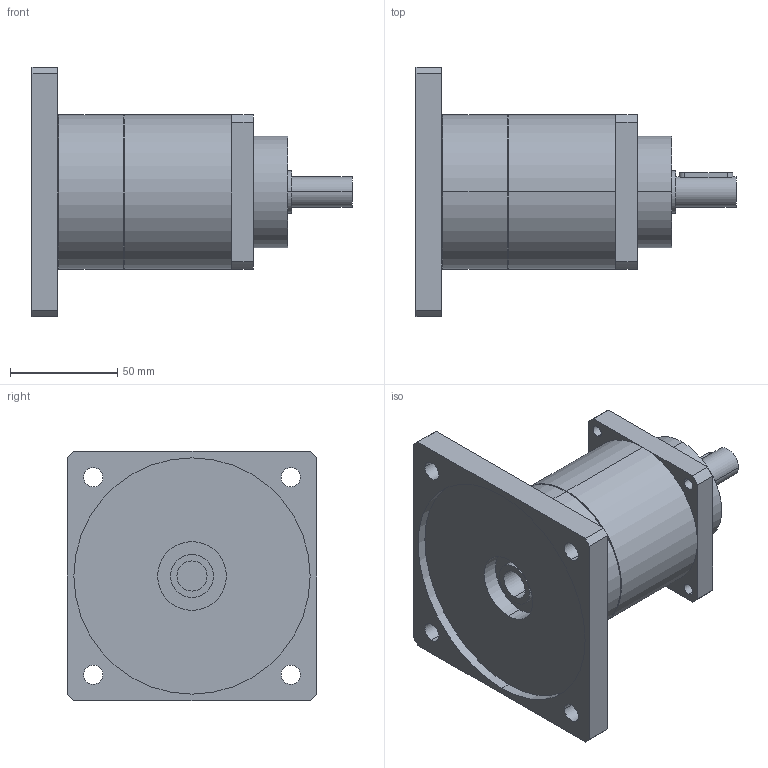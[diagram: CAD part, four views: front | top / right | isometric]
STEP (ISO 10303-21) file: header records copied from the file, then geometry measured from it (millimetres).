
FILE_DESCRIPTION(('CoCreate Modeling STEP Export'),'2;1');
FILE_NAME('GPT75_ig-9-12-16-20-25-28-35-40-50-70-100_14_B5T_14_P09.stp','2014-08-27T13:37:47',(''),(''),'CoCreate Modeling STEP processor for AP214 (Solid Model)','CoCreate Modeling 16.00C 25-Feb-2009 (C) Parametric Technology GmbH','');
FILE_SCHEMA(('AUTOMOTIVE_DESIGN { 1 0 10303 214 1 1 1 1 }'));
Length unit declared in the file: millimetre
Products named in the file (2): GPT75_ig-9-12-16-20-25-28-35-40-50-70-100_14_B5T_14_P09
Assembly tree (1 placements, depth 2):
  GPT75_ig-9-12-16-20-25-28-35-40-50-70-100_14_B5T_14_P09
    GPT75_ig-9-12-16-20-25-28-35-40-50-70-100_14_B5T_14_P09
Bounding box: 149 x 116 x 116 mm (x, y, z)
Volume: 524924.4 mm3; surface area: 65555.1 mm2
Topology: 1 solids, 1 shells, 77 faces, 194 edges, 129 vertices
Faces by surface type: cylinder 46, plane 27, cone 4
Entity records: 2484 total; most frequent: CARTESIAN_POINT 719, ORIENTED_EDGE 388, DIRECTION 320, EDGE_CURVE 194, VERTEX_POINT 129, AXIS2_PLACEMENT_3D 118, EDGE_LOOP 103, VECTOR 84
